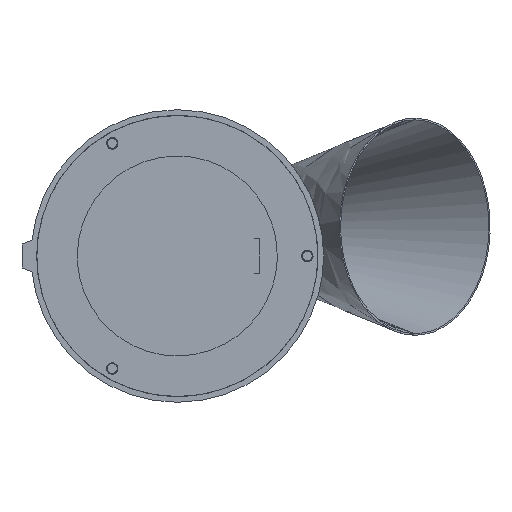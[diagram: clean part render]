
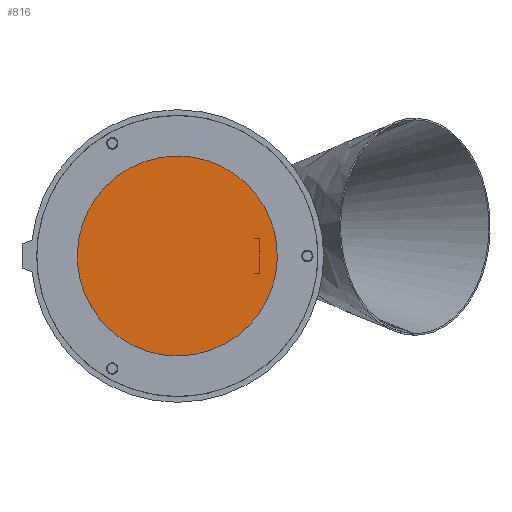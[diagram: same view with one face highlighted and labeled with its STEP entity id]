
A CAD part, front view. The second image highlights one B-rep face of the part: STEP entity #816.
In plain terms, the highlighted planar face has unit normal (0, -1, 0).
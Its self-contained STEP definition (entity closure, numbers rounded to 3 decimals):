
#271=FACE_BOUND('',#2278,.T.);
#272=FACE_BOUND('',#2279,.T.);
#273=FACE_BOUND('',#2280,.T.);
#816=ADVANCED_FACE('',(#1511,#271,#272,#273),#10976,.T.);
#1511=FACE_OUTER_BOUND('',#2277,.T.);
#2277=EDGE_LOOP('',(#5166,#5167));
#2278=EDGE_LOOP('',(#5168,#5169,#5170));
#2279=EDGE_LOOP('',(#5171,#5172,#5173));
#2280=EDGE_LOOP('',(#5174,#5175,#5176));
#5166=ORIENTED_EDGE('',*,*,#7390,.F.);
#5167=ORIENTED_EDGE('',*,*,#7401,.F.);
#5168=ORIENTED_EDGE('',*,*,#7404,.T.);
#5169=ORIENTED_EDGE('',*,*,#7403,.T.);
#5170=ORIENTED_EDGE('',*,*,#7402,.T.);
#5171=ORIENTED_EDGE('',*,*,#7407,.T.);
#5172=ORIENTED_EDGE('',*,*,#7406,.T.);
#5173=ORIENTED_EDGE('',*,*,#7405,.T.);
#5174=ORIENTED_EDGE('',*,*,#7410,.T.);
#5175=ORIENTED_EDGE('',*,*,#7409,.T.);
#5176=ORIENTED_EDGE('',*,*,#7408,.T.);
#7390=EDGE_CURVE('',#10513,#10511,#9349,.T.);
#7401=EDGE_CURVE('',#10511,#10513,#9360,.T.);
#7402=EDGE_CURVE('',#10523,#10524,#9361,.T.);
#7403=EDGE_CURVE('',#10525,#10523,#9362,.T.);
#7404=EDGE_CURVE('',#10524,#10525,#9363,.T.);
#7405=EDGE_CURVE('',#10526,#10527,#9364,.T.);
#7406=EDGE_CURVE('',#10528,#10526,#9365,.T.);
#7407=EDGE_CURVE('',#10527,#10528,#9366,.T.);
#7408=EDGE_CURVE('',#10529,#10530,#9367,.T.);
#7409=EDGE_CURVE('',#10531,#10529,#9368,.T.);
#7410=EDGE_CURVE('',#10530,#10531,#9369,.T.);
#9349=(
BOUNDED_CURVE()
B_SPLINE_CURVE(2,(#34891,#34892,#34893,#34894,#34895),.UNSPECIFIED.,.F.,
 .F.)
B_SPLINE_CURVE_WITH_KNOTS((3,2,3),(0.,135.874,271.748),
 .UNSPECIFIED.)
CURVE()
GEOMETRIC_REPRESENTATION_ITEM()
RATIONAL_B_SPLINE_CURVE((1.,0.707,1.,0.707,1.))
REPRESENTATION_ITEM('')
);
#9360=(
BOUNDED_CURVE()
B_SPLINE_CURVE(2,(#34940,#34941,#34942,#34943,#34944),.UNSPECIFIED.,.F.,
 .F.)
B_SPLINE_CURVE_WITH_KNOTS((3,2,3),(0.,135.874,271.748),
 .UNSPECIFIED.)
CURVE()
GEOMETRIC_REPRESENTATION_ITEM()
RATIONAL_B_SPLINE_CURVE((1.,0.707,1.,0.707,1.))
REPRESENTATION_ITEM('')
);
#9361=(
BOUNDED_CURVE()
B_SPLINE_CURVE(2,(#34945,#34946,#34947),.UNSPECIFIED.,.F.,.F.)
B_SPLINE_CURVE_WITH_KNOTS((3,3),(0.,4.398),.UNSPECIFIED.)
CURVE()
GEOMETRIC_REPRESENTATION_ITEM()
RATIONAL_B_SPLINE_CURVE((1.,0.809,1.))
REPRESENTATION_ITEM('')
);
#9362=(
BOUNDED_CURVE()
B_SPLINE_CURVE(2,(#34948,#34949,#34950,#34951,#34952),.UNSPECIFIED.,.F.,
 .F.)
B_SPLINE_CURVE_WITH_KNOTS((3,2,3),(0.,5.498,10.996),
 .UNSPECIFIED.)
CURVE()
GEOMETRIC_REPRESENTATION_ITEM()
RATIONAL_B_SPLINE_CURVE((1.,0.707,1.,0.707,1.))
REPRESENTATION_ITEM('')
);
#9363=(
BOUNDED_CURVE()
B_SPLINE_CURVE(2,(#34953,#34954,#34955,#34956,#34957),.UNSPECIFIED.,.F.,
 .F.)
B_SPLINE_CURVE_WITH_KNOTS((3,2,3),(0.,3.299,6.597),
 .UNSPECIFIED.)
CURVE()
GEOMETRIC_REPRESENTATION_ITEM()
RATIONAL_B_SPLINE_CURVE((1.,0.891,1.,0.891,1.))
REPRESENTATION_ITEM('')
);
#9364=(
BOUNDED_CURVE()
B_SPLINE_CURVE(2,(#34958,#34959,#34960),.UNSPECIFIED.,.F.,.F.)
B_SPLINE_CURVE_WITH_KNOTS((3,3),(0.,4.398),.UNSPECIFIED.)
CURVE()
GEOMETRIC_REPRESENTATION_ITEM()
RATIONAL_B_SPLINE_CURVE((1.,0.809,1.))
REPRESENTATION_ITEM('')
);
#9365=(
BOUNDED_CURVE()
B_SPLINE_CURVE(2,(#34961,#34962,#34963,#34964,#34965),.UNSPECIFIED.,.F.,
 .F.)
B_SPLINE_CURVE_WITH_KNOTS((3,2,3),(0.,5.498,10.996),
 .UNSPECIFIED.)
CURVE()
GEOMETRIC_REPRESENTATION_ITEM()
RATIONAL_B_SPLINE_CURVE((1.,0.707,1.,0.707,1.))
REPRESENTATION_ITEM('')
);
#9366=(
BOUNDED_CURVE()
B_SPLINE_CURVE(2,(#34966,#34967,#34968,#34969,#34970),.UNSPECIFIED.,.F.,
 .F.)
B_SPLINE_CURVE_WITH_KNOTS((3,2,3),(0.,3.299,6.597),
 .UNSPECIFIED.)
CURVE()
GEOMETRIC_REPRESENTATION_ITEM()
RATIONAL_B_SPLINE_CURVE((1.,0.891,1.,0.891,1.))
REPRESENTATION_ITEM('')
);
#9367=(
BOUNDED_CURVE()
B_SPLINE_CURVE(2,(#34971,#34972,#34973),.UNSPECIFIED.,.F.,.F.)
B_SPLINE_CURVE_WITH_KNOTS((3,3),(0.,4.398),.UNSPECIFIED.)
CURVE()
GEOMETRIC_REPRESENTATION_ITEM()
RATIONAL_B_SPLINE_CURVE((1.,0.809,1.))
REPRESENTATION_ITEM('')
);
#9368=(
BOUNDED_CURVE()
B_SPLINE_CURVE(2,(#34974,#34975,#34976,#34977,#34978),.UNSPECIFIED.,.F.,
 .F.)
B_SPLINE_CURVE_WITH_KNOTS((3,2,3),(0.,5.498,10.996),
 .UNSPECIFIED.)
CURVE()
GEOMETRIC_REPRESENTATION_ITEM()
RATIONAL_B_SPLINE_CURVE((1.,0.707,1.,0.707,1.))
REPRESENTATION_ITEM('')
);
#9369=(
BOUNDED_CURVE()
B_SPLINE_CURVE(2,(#34979,#34980,#34981,#34982,#34983),.UNSPECIFIED.,.F.,
 .F.)
B_SPLINE_CURVE_WITH_KNOTS((3,2,3),(0.,3.299,6.597),
 .UNSPECIFIED.)
CURVE()
GEOMETRIC_REPRESENTATION_ITEM()
RATIONAL_B_SPLINE_CURVE((1.,0.891,1.,0.891,1.))
REPRESENTATION_ITEM('')
);
#10511=VERTEX_POINT('',#34783);
#10513=VERTEX_POINT('',#34785);
#10523=VERTEX_POINT('',#34795);
#10524=VERTEX_POINT('',#34796);
#10525=VERTEX_POINT('',#34797);
#10526=VERTEX_POINT('',#34798);
#10527=VERTEX_POINT('',#34799);
#10528=VERTEX_POINT('',#34800);
#10529=VERTEX_POINT('',#34801);
#10530=VERTEX_POINT('',#34802);
#10531=VERTEX_POINT('',#34803);
#10976=PLANE('',#11691);
#11691=AXIS2_PLACEMENT_3D('',#34225,#11902,$);
#11902=DIRECTION('',(0.,-1.,0.));
#34225=CARTESIAN_POINT('',(-36.5,0.,-86.5));
#34783=CARTESIAN_POINT('',(50.,0.,86.5));
#34785=CARTESIAN_POINT('',(50.,0.,-86.5));
#34795=CARTESIAN_POINT('',(6.671,0.,-68.2));
#34796=CARTESIAN_POINT('',(10.,0.,-65.782));
#34797=CARTESIAN_POINT('',(13.329,0.,-70.364));
#34798=CARTESIAN_POINT('',(126.671,0.,1.082));
#34799=CARTESIAN_POINT('',(130.,0.,3.5));
#34800=CARTESIAN_POINT('',(133.329,0.,-1.082));
#34801=CARTESIAN_POINT('',(6.671,0.,70.364));
#34802=CARTESIAN_POINT('',(10.,0.,72.782));
#34803=CARTESIAN_POINT('',(13.329,0.,68.2));
#34891=CARTESIAN_POINT('',(50.,0.,-86.5));
#34892=CARTESIAN_POINT('',(-36.5,0.,-86.5));
#34893=CARTESIAN_POINT('',(-36.5,0.,0.));
#34894=CARTESIAN_POINT('',(-36.5,0.,86.5));
#34895=CARTESIAN_POINT('',(50.,0.,86.5));
#34940=CARTESIAN_POINT('',(50.,0.,86.5));
#34941=CARTESIAN_POINT('',(136.5,0.,86.5));
#34942=CARTESIAN_POINT('',(136.5,0.,0.));
#34943=CARTESIAN_POINT('',(136.5,0.,-86.5));
#34944=CARTESIAN_POINT('',(50.,0.,-86.5));
#34945=CARTESIAN_POINT('',(6.671,0.,-68.2));
#34946=CARTESIAN_POINT('',(7.457,0.,-65.782));
#34947=CARTESIAN_POINT('',(10.,0.,-65.782));
#34948=CARTESIAN_POINT('',(13.329,0.,-70.364));
#34949=CARTESIAN_POINT('',(12.247,0.,-73.692));
#34950=CARTESIAN_POINT('',(8.918,0.,-72.611));
#34951=CARTESIAN_POINT('',(5.59,0.,-71.529));
#34952=CARTESIAN_POINT('',(6.671,0.,-68.2));
#34953=CARTESIAN_POINT('',(10.,0.,-65.782));
#34954=CARTESIAN_POINT('',(11.783,0.,-65.782));
#34955=CARTESIAN_POINT('',(12.832,0.,-67.225));
#34956=CARTESIAN_POINT('',(13.88,0.,-68.668));
#34957=CARTESIAN_POINT('',(13.329,0.,-70.364));
#34958=CARTESIAN_POINT('',(126.671,0.,1.082));
#34959=CARTESIAN_POINT('',(127.457,0.,3.5));
#34960=CARTESIAN_POINT('',(130.,0.,3.5));
#34961=CARTESIAN_POINT('',(133.329,0.,-1.082));
#34962=CARTESIAN_POINT('',(132.247,0.,-4.41));
#34963=CARTESIAN_POINT('',(128.918,0.,-3.329));
#34964=CARTESIAN_POINT('',(125.59,0.,-2.247));
#34965=CARTESIAN_POINT('',(126.671,0.,1.082));
#34966=CARTESIAN_POINT('',(130.,0.,3.5));
#34967=CARTESIAN_POINT('',(131.783,0.,3.5));
#34968=CARTESIAN_POINT('',(132.832,0.,2.057));
#34969=CARTESIAN_POINT('',(133.88,0.,0.614));
#34970=CARTESIAN_POINT('',(133.329,0.,-1.082));
#34971=CARTESIAN_POINT('',(6.671,0.,70.364));
#34972=CARTESIAN_POINT('',(7.457,0.,72.782));
#34973=CARTESIAN_POINT('',(10.,0.,72.782));
#34974=CARTESIAN_POINT('',(13.329,0.,68.2));
#34975=CARTESIAN_POINT('',(12.247,0.,64.872));
#34976=CARTESIAN_POINT('',(8.918,0.,65.953));
#34977=CARTESIAN_POINT('',(5.59,0.,67.035));
#34978=CARTESIAN_POINT('',(6.671,0.,70.364));
#34979=CARTESIAN_POINT('',(10.,0.,72.782));
#34980=CARTESIAN_POINT('',(11.783,0.,72.782));
#34981=CARTESIAN_POINT('',(12.832,0.,71.339));
#34982=CARTESIAN_POINT('',(13.88,0.,69.897));
#34983=CARTESIAN_POINT('',(13.329,0.,68.2));
